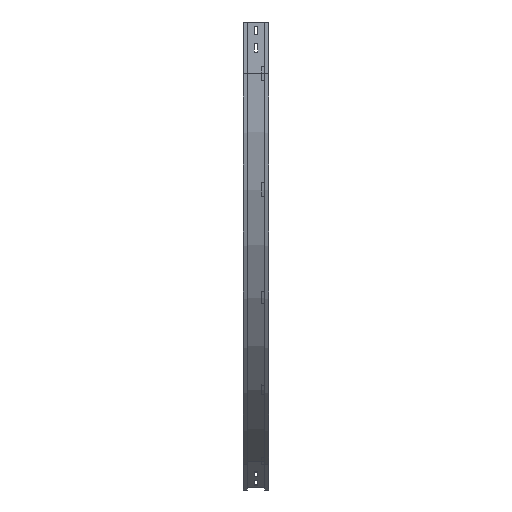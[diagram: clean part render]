
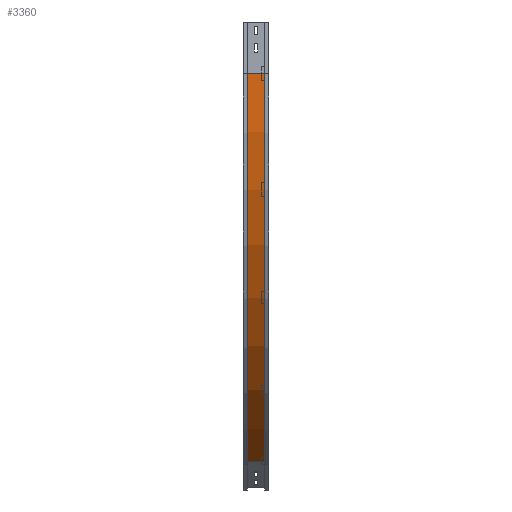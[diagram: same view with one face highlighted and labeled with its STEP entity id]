
A CAD part, left-side view. The second image highlights one B-rep face of the part: STEP entity #3360.
In plain terms, the highlighted cylindrical face has radius 1300 mm (diameter 2600 mm), a partial arc.
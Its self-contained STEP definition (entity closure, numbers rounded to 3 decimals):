
#44 = AXIS2_PLACEMENT_3D ( 'NONE', #831, #1918, #2204 ) ;
#78 = VERTEX_POINT ( 'NONE', #2273 ) ;
#233 = DIRECTION ( 'NONE',  ( 0., 0., -1. ) ) ;
#253 = AXIS2_PLACEMENT_3D ( 'NONE', #524, #974, #233 ) ;
#292 = VERTEX_POINT ( 'NONE', #1800 ) ;
#360 = LINE ( 'NONE', #2949, #3351 ) ;
#524 = CARTESIAN_POINT ( 'NONE',  ( 1309., 0., -150. ) ) ;
#527 = VECTOR ( 'NONE', #613, 1000. ) ;
#613 = DIRECTION ( 'NONE',  ( 0., -1., 0. ) ) ;
#621 = VERTEX_POINT ( 'NONE', #1509 ) ;
#639 = AXIS2_PLACEMENT_3D ( 'NONE', #802, #1061, #1138 ) ;
#800 = CIRCLE ( 'NONE', #44, 1300. ) ;
#802 = CARTESIAN_POINT ( 'NONE',  ( 1309., 12., -150. ) ) ;
#831 = CARTESIAN_POINT ( 'NONE',  ( 1309., 63., -150. ) ) ;
#974 = DIRECTION ( 'NONE',  ( 0., -1., 0. ) ) ;
#1061 = DIRECTION ( 'NONE',  ( 0., -1., 0. ) ) ;
#1138 = DIRECTION ( 'NONE',  ( -1., 0., 0. ) ) ;
#1216 = EDGE_LOOP ( 'NONE', ( #1353, #3347, #2509, #2570 ) ) ;
#1291 = FACE_OUTER_BOUND ( 'NONE', #1216, .T. ) ;
#1353 = ORIENTED_EDGE ( 'NONE', *, *, #3057, .F. ) ;
#1378 = CARTESIAN_POINT ( 'NONE',  ( 9., 12., -150. ) ) ;
#1499 = EDGE_CURVE ( 'NONE', #292, #78, #360, .T. ) ;
#1509 = CARTESIAN_POINT ( 'NONE',  ( 9., 12., -150. ) ) ;
#1776 = CYLINDRICAL_SURFACE ( 'NONE', #253, 1300. ) ;
#1800 = CARTESIAN_POINT ( 'NONE',  ( 659., 63., -1275.833 ) ) ;
#1918 = DIRECTION ( 'NONE',  ( 0., -1., 0. ) ) ;
#1968 = CIRCLE ( 'NONE', #639, 1300. ) ;
#2151 = LINE ( 'NONE', #1378, #527 ) ;
#2204 = DIRECTION ( 'NONE',  ( -1., 0., 0. ) ) ;
#2273 = CARTESIAN_POINT ( 'NONE',  ( 659., 12., -1275.833 ) ) ;
#2411 = DIRECTION ( 'NONE',  ( 0., -1., 0. ) ) ;
#2509 = ORIENTED_EDGE ( 'NONE', *, *, #3131, .T. ) ;
#2570 = ORIENTED_EDGE ( 'NONE', *, *, #1499, .T. ) ;
#2591 = CARTESIAN_POINT ( 'NONE',  ( 9., 63., -150. ) ) ;
#2718 = EDGE_CURVE ( 'NONE', #3017, #621, #2151, .T. ) ;
#2949 = CARTESIAN_POINT ( 'NONE',  ( 659., 12., -1275.833 ) ) ;
#3017 = VERTEX_POINT ( 'NONE', #2591 ) ;
#3057 = EDGE_CURVE ( 'NONE', #621, #78, #1968, .T. ) ;
#3131 = EDGE_CURVE ( 'NONE', #3017, #292, #800, .T. ) ;
#3347 = ORIENTED_EDGE ( 'NONE', *, *, #2718, .F. ) ;
#3351 = VECTOR ( 'NONE', #2411, 1000. ) ;
#3360 = ADVANCED_FACE ( 'NONE', ( #1291 ), #1776, .T. ) ;
